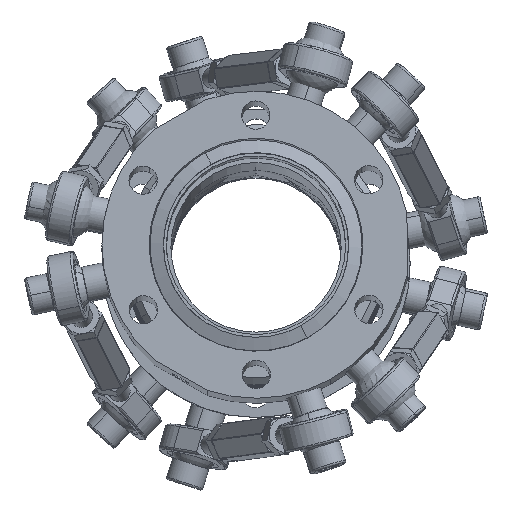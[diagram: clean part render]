
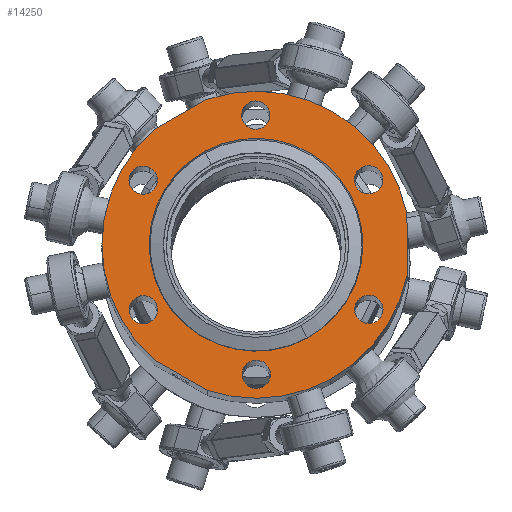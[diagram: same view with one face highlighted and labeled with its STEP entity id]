
A CAD part, top view. The second image highlights one B-rep face of the part: STEP entity #14250.
In plain terms, the highlighted planar face has unit normal (0, 0.087, 0.996).
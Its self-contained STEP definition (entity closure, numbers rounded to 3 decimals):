
#14073=AXIS2_PLACEMENT_3D('Plane Axis2P3D',#14070,#14071,#14072) ;
#14077=AXIS2_PLACEMENT_3D('Circle Axis2P3D',#14075,#14076,$) ;
#14093=AXIS2_PLACEMENT_3D('Circle Axis2P3D',#14091,#14092,$) ;
#14100=AXIS2_PLACEMENT_3D('Circle Axis2P3D',#14098,#14099,$) ;
#14105=AXIS2_PLACEMENT_3D('Circle Axis2P3D',#14103,#14104,$) ;
#14126=AXIS2_PLACEMENT_3D('Circle Axis2P3D',#14124,#14125,$) ;
#14135=AXIS2_PLACEMENT_3D('Circle Axis2P3D',#14133,#14134,$) ;
#14144=AXIS2_PLACEMENT_3D('Circle Axis2P3D',#14142,#14143,$) ;
#14153=AXIS2_PLACEMENT_3D('Circle Axis2P3D',#14151,#14152,$) ;
#14162=AXIS2_PLACEMENT_3D('Circle Axis2P3D',#14160,#14161,$) ;
#14171=AXIS2_PLACEMENT_3D('Circle Axis2P3D',#14169,#14170,$) ;
#14180=AXIS2_PLACEMENT_3D('Circle Axis2P3D',#14178,#14179,$) ;
#14189=AXIS2_PLACEMENT_3D('Circle Axis2P3D',#14187,#14188,$) ;
#14198=AXIS2_PLACEMENT_3D('Circle Axis2P3D',#14196,#14197,$) ;
#14207=AXIS2_PLACEMENT_3D('Circle Axis2P3D',#14205,#14206,$) ;
#14216=AXIS2_PLACEMENT_3D('Circle Axis2P3D',#14214,#14215,$) ;
#14225=AXIS2_PLACEMENT_3D('Circle Axis2P3D',#14223,#14224,$) ;
#14234=AXIS2_PLACEMENT_3D('Circle Axis2P3D',#14232,#14233,$) ;
#14243=AXIS2_PLACEMENT_3D('Circle Axis2P3D',#14241,#14242,$) ;
#14020=CARTESIAN_POINT('Vertex',(34.063,-2.807,91.593)) ;
#14036=CARTESIAN_POINT('Vertex',(34.037,11.019,90.383)) ;
#14039=CARTESIAN_POINT('Line Origine',(34.05,4.106,90.988)) ;
#14070=CARTESIAN_POINT('Axis2P3D Location',(-0.066,38.659,87.965)) ;
#14075=CARTESIAN_POINT('Axis2P3D Location',(0.,4.041,90.993)) ;
#14079=CARTESIAN_POINT('Vertex',(-23.084,29.917,88.73)) ;
#14081=CARTESIAN_POINT('Vertex',(-22.985,-21.922,93.265)) ;
#14084=CARTESIAN_POINT('Line Origine',(-16.969,-25.367,93.566)) ;
#14088=CARTESIAN_POINT('Vertex',(-10.952,-28.812,93.868)) ;
#14091=CARTESIAN_POINT('Axis2P3D Location',(0.,4.041,90.993)) ;
#14095=CARTESIAN_POINT('Vertex',(16.718,-26.307,93.649)) ;
#14098=CARTESIAN_POINT('Axis2P3D Location',(0.,4.041,90.993)) ;
#14103=CARTESIAN_POINT('Axis2P3D Location',(0.,4.041,90.993)) ;
#14107=CARTESIAN_POINT('Vertex',(-11.078,36.853,88.123)) ;
#14110=CARTESIAN_POINT('Line Origine',(-17.081,33.385,88.426)) ;
#14124=CARTESIAN_POINT('Axis2P3D Location',(0.056,-25.197,93.551)) ;
#14128=CARTESIAN_POINT('Vertex',(-3.143,-25.278,93.559)) ;
#14130=CARTESIAN_POINT('Vertex',(3.255,-25.116,93.544)) ;
#14133=CARTESIAN_POINT('Axis2P3D Location',(0.056,-25.197,93.551)) ;
#14142=CARTESIAN_POINT('Axis2P3D Location',(-25.446,18.612,89.719)) ;
#14146=CARTESIAN_POINT('Vertex',(-26.975,15.812,89.964)) ;
#14148=CARTESIAN_POINT('Vertex',(-23.917,21.413,89.474)) ;
#14151=CARTESIAN_POINT('Axis2P3D Location',(-25.446,18.612,89.719)) ;
#14160=CARTESIAN_POINT('Axis2P3D Location',(0.,4.041,90.993)) ;
#14164=CARTESIAN_POINT('Vertex',(-11.594,25.089,89.152)) ;
#14166=CARTESIAN_POINT('Vertex',(11.594,-17.006,92.835)) ;
#14169=CARTESIAN_POINT('Axis2P3D Location',(0.,4.041,90.993)) ;
#14178=CARTESIAN_POINT('Axis2P3D Location',(-25.39,-10.626,92.277)) ;
#14182=CARTESIAN_POINT('Vertex',(-27.06,-7.907,92.039)) ;
#14184=CARTESIAN_POINT('Vertex',(-23.72,-13.345,92.515)) ;
#14187=CARTESIAN_POINT('Axis2P3D Location',(-25.39,-10.626,92.277)) ;
#14196=CARTESIAN_POINT('Axis2P3D Location',(25.446,-10.53,92.268)) ;
#14200=CARTESIAN_POINT('Vertex',(23.917,-13.33,92.513)) ;
#14202=CARTESIAN_POINT('Vertex',(26.975,-7.729,92.023)) ;
#14205=CARTESIAN_POINT('Axis2P3D Location',(25.446,-10.53,92.268)) ;
#14214=CARTESIAN_POINT('Axis2P3D Location',(25.39,18.709,89.71)) ;
#14218=CARTESIAN_POINT('Vertex',(27.06,15.99,89.948)) ;
#14220=CARTESIAN_POINT('Vertex',(23.72,21.428,89.472)) ;
#14223=CARTESIAN_POINT('Axis2P3D Location',(25.39,18.709,89.71)) ;
#14232=CARTESIAN_POINT('Axis2P3D Location',(-0.056,33.28,88.435)) ;
#14236=CARTESIAN_POINT('Vertex',(3.143,33.361,88.428)) ;
#14238=CARTESIAN_POINT('Vertex',(-3.255,33.198,88.443)) ;
#14241=CARTESIAN_POINT('Axis2P3D Location',(-0.056,33.28,88.435)) ;
#14040=DIRECTION('Vector Direction',(-0.002,0.996,-0.087)) ;
#14071=DIRECTION('Axis2P3D Direction',(0.,0.087,0.996)) ;
#14072=DIRECTION('Axis2P3D XDirection',(-0.002,0.996,-0.087)) ;
#14076=DIRECTION('Axis2P3D Direction',(0.,0.087,0.996)) ;
#14085=DIRECTION('Vector Direction',(0.867,-0.496,0.043)) ;
#14092=DIRECTION('Axis2P3D Direction',(0.,0.087,0.996)) ;
#14099=DIRECTION('Axis2P3D Direction',(0.,0.087,0.996)) ;
#14104=DIRECTION('Axis2P3D Direction',(0.,0.087,0.996)) ;
#14111=DIRECTION('Vector Direction',(-0.865,-0.5,0.044)) ;
#14125=DIRECTION('Axis2P3D Direction',(0.,0.087,0.996)) ;
#14134=DIRECTION('Axis2P3D Direction',(0.,0.087,0.996)) ;
#14143=DIRECTION('Axis2P3D Direction',(0.,0.087,0.996)) ;
#14152=DIRECTION('Axis2P3D Direction',(0.,0.087,0.996)) ;
#14161=DIRECTION('Axis2P3D Direction',(0.,0.087,0.996)) ;
#14170=DIRECTION('Axis2P3D Direction',(0.,0.087,0.996)) ;
#14179=DIRECTION('Axis2P3D Direction',(0.,0.087,0.996)) ;
#14188=DIRECTION('Axis2P3D Direction',(0.,0.087,0.996)) ;
#14197=DIRECTION('Axis2P3D Direction',(0.,0.087,0.996)) ;
#14206=DIRECTION('Axis2P3D Direction',(0.,0.087,0.996)) ;
#14215=DIRECTION('Axis2P3D Direction',(0.,0.087,0.996)) ;
#14224=DIRECTION('Axis2P3D Direction',(0.,0.087,0.996)) ;
#14233=DIRECTION('Axis2P3D Direction',(0.,0.087,0.996)) ;
#14242=DIRECTION('Axis2P3D Direction',(0.,0.087,0.996)) ;
#14041=VECTOR('Line Direction',#14040,1.) ;
#14086=VECTOR('Line Direction',#14085,1.) ;
#14112=VECTOR('Line Direction',#14111,1.) ;
#14116=ORIENTED_EDGE('',*,*,#14083,.T.) ;
#14117=ORIENTED_EDGE('',*,*,#14090,.F.) ;
#14118=ORIENTED_EDGE('',*,*,#14097,.T.) ;
#14119=ORIENTED_EDGE('',*,*,#14102,.T.) ;
#14120=ORIENTED_EDGE('',*,*,#14043,.F.) ;
#14121=ORIENTED_EDGE('',*,*,#14109,.T.) ;
#14122=ORIENTED_EDGE('',*,*,#14114,.F.) ;
#14139=ORIENTED_EDGE('',*,*,#14132,.F.) ;
#14140=ORIENTED_EDGE('',*,*,#14137,.F.) ;
#14157=ORIENTED_EDGE('',*,*,#14150,.F.) ;
#14158=ORIENTED_EDGE('',*,*,#14155,.F.) ;
#14175=ORIENTED_EDGE('',*,*,#14168,.F.) ;
#14176=ORIENTED_EDGE('',*,*,#14173,.F.) ;
#14193=ORIENTED_EDGE('',*,*,#14186,.F.) ;
#14194=ORIENTED_EDGE('',*,*,#14191,.F.) ;
#14211=ORIENTED_EDGE('',*,*,#14204,.F.) ;
#14212=ORIENTED_EDGE('',*,*,#14209,.F.) ;
#14229=ORIENTED_EDGE('',*,*,#14222,.F.) ;
#14230=ORIENTED_EDGE('',*,*,#14227,.F.) ;
#14247=ORIENTED_EDGE('',*,*,#14240,.F.) ;
#14248=ORIENTED_EDGE('',*,*,#14245,.F.) ;
#14141=FACE_BOUND('',#14138,.T.) ;
#14159=FACE_BOUND('',#14156,.T.) ;
#14177=FACE_BOUND('',#14174,.T.) ;
#14195=FACE_BOUND('',#14192,.T.) ;
#14213=FACE_BOUND('',#14210,.T.) ;
#14231=FACE_BOUND('',#14228,.T.) ;
#14249=FACE_BOUND('',#14246,.T.) ;
#14250=ADVANCED_FACE('Brep With Voids.1',(#14123,#14141,#14159,#14177,#14195,#14213,#14231,#14249),#14074,.T.) ;
#14078=CIRCLE('generated circle',#14077,34.75) ;
#14094=CIRCLE('generated circle',#14093,34.75) ;
#14101=CIRCLE('generated circle',#14100,34.75) ;
#14106=CIRCLE('generated circle',#14105,34.75) ;
#14127=CIRCLE('generated circle',#14126,3.2) ;
#14136=CIRCLE('generated circle',#14135,3.2) ;
#14145=CIRCLE('generated circle',#14144,3.2) ;
#14154=CIRCLE('generated circle',#14153,3.2) ;
#14163=CIRCLE('generated circle',#14162,24.1) ;
#14172=CIRCLE('generated circle',#14171,24.1) ;
#14181=CIRCLE('generated circle',#14180,3.2) ;
#14190=CIRCLE('generated circle',#14189,3.2) ;
#14199=CIRCLE('generated circle',#14198,3.2) ;
#14208=CIRCLE('generated circle',#14207,3.2) ;
#14217=CIRCLE('generated circle',#14216,3.2) ;
#14226=CIRCLE('generated circle',#14225,3.2) ;
#14235=CIRCLE('generated circle',#14234,3.2) ;
#14244=CIRCLE('generated circle',#14243,3.2) ;
#14043=EDGE_CURVE('',#14037,#14021,#14042,.F.) ;
#14083=EDGE_CURVE('',#14080,#14082,#14078,.T.) ;
#14090=EDGE_CURVE('',#14089,#14082,#14087,.F.) ;
#14097=EDGE_CURVE('',#14089,#14096,#14094,.T.) ;
#14102=EDGE_CURVE('',#14096,#14021,#14101,.T.) ;
#14109=EDGE_CURVE('',#14037,#14108,#14106,.T.) ;
#14114=EDGE_CURVE('',#14080,#14108,#14113,.F.) ;
#14132=EDGE_CURVE('',#14129,#14131,#14127,.T.) ;
#14137=EDGE_CURVE('',#14131,#14129,#14136,.T.) ;
#14150=EDGE_CURVE('',#14147,#14149,#14145,.T.) ;
#14155=EDGE_CURVE('',#14149,#14147,#14154,.T.) ;
#14168=EDGE_CURVE('',#14165,#14167,#14163,.T.) ;
#14173=EDGE_CURVE('',#14167,#14165,#14172,.T.) ;
#14186=EDGE_CURVE('',#14183,#14185,#14181,.T.) ;
#14191=EDGE_CURVE('',#14185,#14183,#14190,.T.) ;
#14204=EDGE_CURVE('',#14201,#14203,#14199,.T.) ;
#14209=EDGE_CURVE('',#14203,#14201,#14208,.T.) ;
#14222=EDGE_CURVE('',#14219,#14221,#14217,.T.) ;
#14227=EDGE_CURVE('',#14221,#14219,#14226,.T.) ;
#14240=EDGE_CURVE('',#14237,#14239,#14235,.T.) ;
#14245=EDGE_CURVE('',#14239,#14237,#14244,.T.) ;
#14115=EDGE_LOOP('',(#14116,#14117,#14118,#14119,#14120,#14121,#14122)) ;
#14138=EDGE_LOOP('',(#14139,#14140)) ;
#14156=EDGE_LOOP('',(#14157,#14158)) ;
#14174=EDGE_LOOP('',(#14175,#14176)) ;
#14192=EDGE_LOOP('',(#14193,#14194)) ;
#14210=EDGE_LOOP('',(#14211,#14212)) ;
#14228=EDGE_LOOP('',(#14229,#14230)) ;
#14246=EDGE_LOOP('',(#14247,#14248)) ;
#14123=FACE_OUTER_BOUND('',#14115,.T.) ;
#14042=LINE('Line',#14039,#14041) ;
#14087=LINE('Line',#14084,#14086) ;
#14113=LINE('Line',#14110,#14112) ;
#14074=PLANE('',#14073) ;
#14021=VERTEX_POINT('',#14020) ;
#14037=VERTEX_POINT('',#14036) ;
#14080=VERTEX_POINT('',#14079) ;
#14082=VERTEX_POINT('',#14081) ;
#14089=VERTEX_POINT('',#14088) ;
#14096=VERTEX_POINT('',#14095) ;
#14108=VERTEX_POINT('',#14107) ;
#14129=VERTEX_POINT('',#14128) ;
#14131=VERTEX_POINT('',#14130) ;
#14147=VERTEX_POINT('',#14146) ;
#14149=VERTEX_POINT('',#14148) ;
#14165=VERTEX_POINT('',#14164) ;
#14167=VERTEX_POINT('',#14166) ;
#14183=VERTEX_POINT('',#14182) ;
#14185=VERTEX_POINT('',#14184) ;
#14201=VERTEX_POINT('',#14200) ;
#14203=VERTEX_POINT('',#14202) ;
#14219=VERTEX_POINT('',#14218) ;
#14221=VERTEX_POINT('',#14220) ;
#14237=VERTEX_POINT('',#14236) ;
#14239=VERTEX_POINT('',#14238) ;
